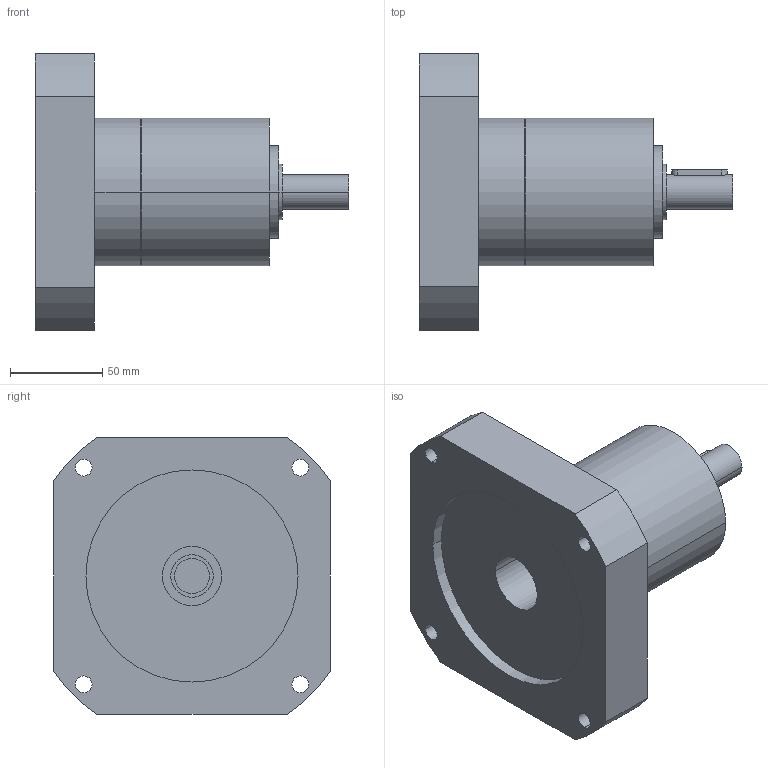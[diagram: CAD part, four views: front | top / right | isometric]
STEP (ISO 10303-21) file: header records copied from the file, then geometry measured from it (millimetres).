
FILE_DESCRIPTION(('CoCreate Modeling STEP Export'),'2;1');
FILE_NAME('GPR100_ig-3-4-5-6_19_B14_19_P11.stp','2014-08-26T10:08:39',(''),(''),'CoCreate Modeling STEP processor for AP214 (Solid Model)','CoCreate Modeling 16.00C 25-Feb-2009 (C) Parametric Technology GmbH','');
FILE_SCHEMA(('AUTOMOTIVE_DESIGN { 1 0 10303 214 1 1 1 1 }'));
Length unit declared in the file: millimetre
Products named in the file (2): GPR100_ig-3-4-5-6_19_B14_19_P11
Assembly tree (1 placements, depth 2):
  GPR100_ig-3-4-5-6_19_B14_19_P11
    GPR100_ig-3-4-5-6_19_B14_19_P11
Bounding box: 170 x 150 x 150 mm (x, y, z)
Volume: 1082530 mm3; surface area: 100092.2 mm2
Topology: 1 solids, 1 shells, 70 faces, 190 edges, 134 vertices
Faces by surface type: cylinder 42, plane 22, cone 6
Entity records: 1949 total; most frequent: ORIENTED_EDGE 376, CARTESIAN_POINT 362, DIRECTION 262, EDGE_CURVE 188, VERTEX_POINT 134, AXIS2_PLACEMENT_3D 98, EDGE_LOOP 92, FACE_OUTER_BOUND 70
